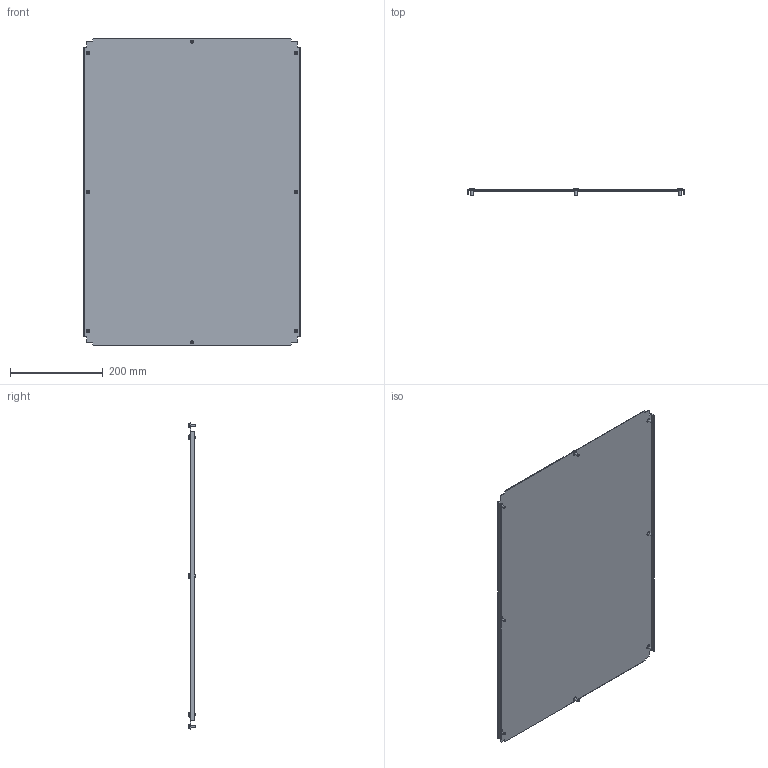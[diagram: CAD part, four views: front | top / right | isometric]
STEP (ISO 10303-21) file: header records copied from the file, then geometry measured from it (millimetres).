
FILE_DESCRIPTION (( 'STEP AP203' ), '1' );
FILE_NAME ('R5N1BP68.STEP', '2025-02-21T13:52:37', ( '' ), ( '' ), 'SwSTEP 2.0', 'SolidWorks 2022', '' );
FILE_SCHEMA (( 'CONFIG_CONTROL_DESIGN' ));
Length unit declared in the file: millimetre
Products named in the file (3): M5x12 DIN 7500 C Torx Zinc_stright; R5N1BP68; RB.1923.00.00.0_-10
Assembly tree (9 placements, depth 2):
  R5N1BP68
    RB.1923.00.00.0_-10
    M5x12 DIN 7500 C Torx Zinc_stright  x8
Bounding box: 468 x 15.56 x 662 mm (x, y, z)
Volume: 480563.3 mm3; surface area: 643327 mm2
Topology: 9 solids, 9 shells, 206 faces, 468 edges, 288 vertices
Faces by surface type: plane 126, cylinder 32, torus 16, cone 16, sphere 8, bspline 8
Full cylindrical faces by diameter (mm): 5 x8, 9.5 x8
Entity records: 3641 total; most frequent: CARTESIAN_POINT 724, DIRECTION 496, ORIENTED_EDGE 496, EDGE_CURVE 248, LINE 196, VECTOR 196, VERTEX_POINT 166, AXIS2_PLACEMENT_3D 150
